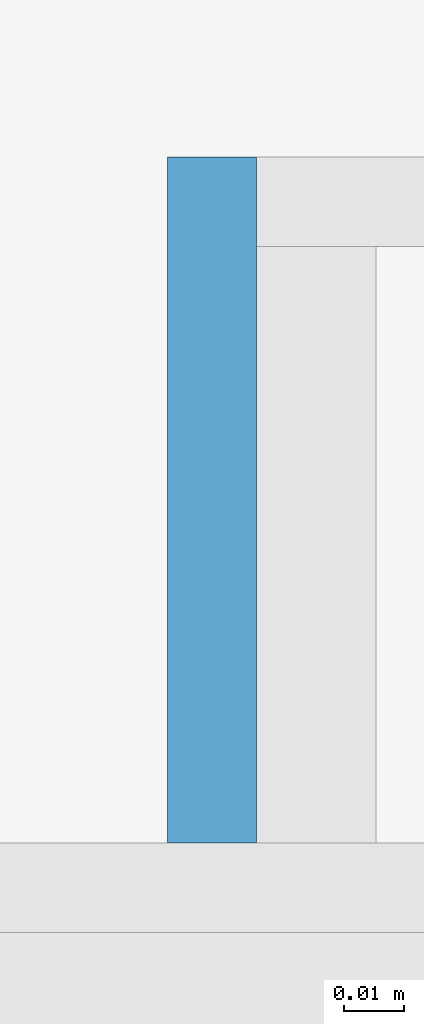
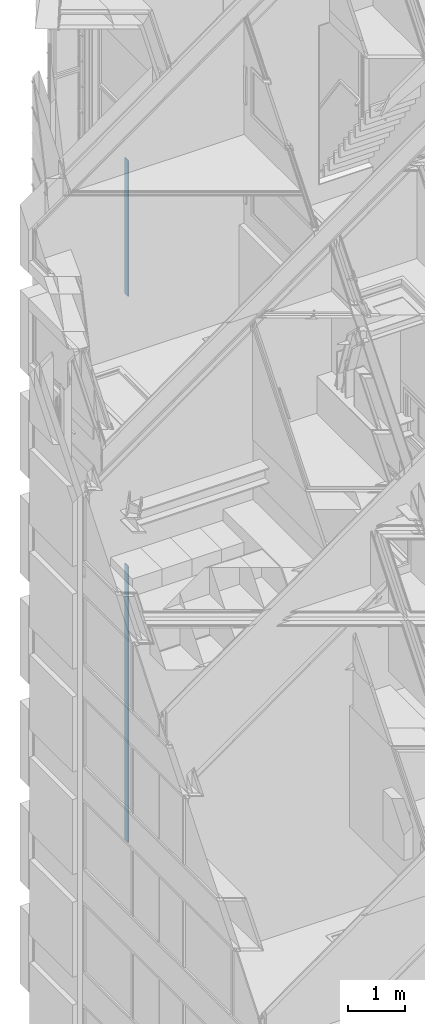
# One storey, part 274 of 583: 2 slabs.
"""IFC2X3 building model written with IfcOpenShell, lengths in metres."""

from ifc_helpers import new_model, entity, si_unit, converted_unit, derived_unit, money_unit, direction, frame, origin_with_axes, place, context, subcontext, project, spatial, faceted_brep, material, type_object, element, save


model = new_model("IFC2X3")

# Units and contexts
model_context = context("Model", 3, precision=1e-05, world=origin_with_axes(), true_north=direction((0.0, 1.0)))
body_context = subcontext(model_context, "Body", "Model", "MODEL_VIEW", scale=1.0)
ifc_project = project(units=[si_unit("LENGTHUNIT", "METRE"), si_unit("AREAUNIT", "SQUARE_METRE"), si_unit("VOLUMEUNIT", "CUBIC_METRE"), si_unit("ABSORBEDDOSEUNIT", "GRAY"), si_unit("AMOUNTOFSUBSTANCEUNIT", "MOLE"), si_unit("DOSEEQUIVALENTUNIT", "SIEVERT"), si_unit("ELECTRICCAPACITANCEUNIT", "FARAD"), si_unit("ELECTRICCHARGEUNIT", "COULOMB"), si_unit("ELECTRICCONDUCTANCEUNIT", "SIEMENS"), si_unit("ELECTRICCURRENTUNIT", "AMPERE"), si_unit("ELECTRICRESISTANCEUNIT", "OHM"), si_unit("ELECTRICVOLTAGEUNIT", "VOLT"), si_unit("ENERGYUNIT", "JOULE"), si_unit("FORCEUNIT", "NEWTON"), si_unit("FREQUENCYUNIT", "HERTZ"), si_unit("ILLUMINANCEUNIT", "LUX"), si_unit("INDUCTANCEUNIT", "HENRY"), si_unit("LUMINOUSFLUXUNIT", "LUMEN"), si_unit("LUMINOUSINTENSITYUNIT", "CANDELA"), si_unit("MAGNETICFLUXDENSITYUNIT", "TESLA"), si_unit("MAGNETICFLUXUNIT", "WEBER"), si_unit("MASSUNIT", "GRAM"), converted_unit("PLANEANGLEUNIT", "degree", entity("IfcReal", 0.0174532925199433), si_unit("PLANEANGLEUNIT", "RADIAN"), dimensions=[0, 0, 0, 0, 0, 0, 0]), si_unit("POWERUNIT", "WATT"), si_unit("PRESSUREUNIT", "PASCAL"), si_unit("RADIOACTIVITYUNIT", "BECQUEREL"), si_unit("SOLIDANGLEUNIT", "STERADIAN"), si_unit("THERMODYNAMICTEMPERATUREUNIT", "KELVIN"), si_unit("TIMEUNIT", "SECOND"), derived_unit("ACCELERATIONUNIT", [(si_unit("LENGTHUNIT", "METRE"), 1), (si_unit("TIMEUNIT", "SECOND"), -2)]), derived_unit("ANGULARVELOCITYUNIT", [(converted_unit("PLANEANGLEUNIT", "degree", entity("IfcReal", 0.0174532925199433), si_unit("PLANEANGLEUNIT", "RADIAN"), dimensions=[0, 0, 0, 0, 0, 0, 0]), 1), (si_unit("TIMEUNIT", "SECOND"), -1)]), derived_unit("CURVATUREUNIT", [(converted_unit("PLANEANGLEUNIT", "degree", entity("IfcReal", 0.0174532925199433), si_unit("PLANEANGLEUNIT", "RADIAN"), dimensions=[0, 0, 0, 0, 0, 0, 0]), 1), (si_unit("LENGTHUNIT", "METRE"), -1)]), derived_unit("DYNAMICVISCOSITYUNIT", [(si_unit("PRESSUREUNIT", "PASCAL"), 1), (si_unit("TIMEUNIT", "SECOND"), 1)]), derived_unit("HEATFLUXDENSITYUNIT", [(si_unit("POWERUNIT", "WATT"), 1), (si_unit("LENGTHUNIT", "METRE"), -2)]), derived_unit("HEATINGVALUEUNIT", [(si_unit("ENERGYUNIT", "JOULE"), 1), (si_unit("MASSUNIT", "GRAM"), -1)]), derived_unit("INTEGERCOUNTRATEUNIT", [(si_unit("TIMEUNIT", "SECOND"), -1)]), derived_unit("IONCONCENTRATIONUNIT", [(si_unit("MASSUNIT", "GRAM"), 1), (si_unit("VOLUMEUNIT", "CUBIC_METRE"), -1)]), derived_unit("ISOTHERMALMOISTURECAPACITYUNIT", [(si_unit("VOLUMEUNIT", "CUBIC_METRE"), 1), (si_unit("MASSUNIT", "GRAM"), -1)]), derived_unit("KINEMATICVISCOSITYUNIT", [(si_unit("AREAUNIT", "SQUARE_METRE"), 1), (si_unit("TIMEUNIT", "SECOND"), -1)]), derived_unit("LINEARFORCEUNIT", [(si_unit("FORCEUNIT", "NEWTON"), 1), (si_unit("LENGTHUNIT", "METRE"), -1)]), derived_unit("LINEARMOMENTUNIT", [(si_unit("FORCEUNIT", "NEWTON"), 1), (si_unit("LENGTHUNIT", "METRE"), -1)]), derived_unit("LINEARSTIFFNESSUNIT", [(si_unit("FORCEUNIT", "NEWTON"), 1), (si_unit("LENGTHUNIT", "METRE"), -1)]), derived_unit("LINEARVELOCITYUNIT", [(si_unit("LENGTHUNIT", "METRE"), 1), (si_unit("TIMEUNIT", "SECOND"), -1)]), derived_unit("LUMINOUSINTENSITYDISTRIBUTIONUNIT", [(si_unit("LUMINOUSINTENSITYUNIT", "CANDELA"), 1), (si_unit("LUMINOUSFLUXUNIT", "LUMEN"), -1)]), derived_unit("MASSDENSITYUNIT", [(si_unit("MASSUNIT", "GRAM"), 1), (si_unit("VOLUMEUNIT", "CUBIC_METRE"), -1)]), derived_unit("MASSFLOWRATEUNIT", [(si_unit("MASSUNIT", "GRAM"), 1), (si_unit("TIMEUNIT", "SECOND"), -1)]), derived_unit("MASSPERLENGTHUNIT", [(si_unit("MASSUNIT", "GRAM"), 1), (si_unit("LENGTHUNIT", "METRE"), -1)]), derived_unit("MODULUSOFELASTICITYUNIT", [(si_unit("FORCEUNIT", "NEWTON"), 1), (si_unit("AREAUNIT", "SQUARE_METRE"), -1)]), derived_unit("MODULUSOFLINEARSUBGRADEREACTIONUNIT", [(si_unit("FORCEUNIT", "NEWTON"), 1), (si_unit("LENGTHUNIT", "METRE"), -2)]), derived_unit("MODULUSOFROTATIONALSUBGRADEREACTIONUNIT", [(si_unit("FORCEUNIT", "NEWTON"), 1), (si_unit("LENGTHUNIT", "METRE"), 1)]), derived_unit("MODULUSOFSUBGRADEREACTIONUNIT", [(si_unit("FORCEUNIT", "NEWTON"), 1), (si_unit("VOLUMEUNIT", "CUBIC_METRE"), -1)]), derived_unit("MOISTUREDIFFUSIVITYUNIT", [(si_unit("VOLUMEUNIT", "CUBIC_METRE"), 1), (si_unit("TIMEUNIT", "SECOND"), -1)]), derived_unit("MOLECULARWEIGHTUNIT", [(si_unit("MASSUNIT", "GRAM"), 1), (si_unit("AMOUNTOFSUBSTANCEUNIT", "MOLE"), -1)]), derived_unit("PLANARFORCEUNIT", [(si_unit("FORCEUNIT", "NEWTON"), 1), (si_unit("LENGTHUNIT", "METRE"), -2)]), derived_unit("ROTATIONALFREQUENCYUNIT", [(si_unit("TIMEUNIT", "SECOND"), -1)]), derived_unit("ROTATIONALMASSUNIT", [(si_unit("MASSUNIT", "GRAM"), 1), (si_unit("LENGTHUNIT", "METRE"), 2)]), derived_unit("ROTATIONALSTIFFNESSUNIT", [(si_unit("FORCEUNIT", "NEWTON"), 1), (si_unit("LENGTHUNIT", "METRE"), 1), (converted_unit("PLANEANGLEUNIT", "degree", entity("IfcReal", 0.0174532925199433), si_unit("PLANEANGLEUNIT", "RADIAN"), dimensions=[0, 0, 0, 0, 0, 0, 0]), -1)]), derived_unit("SECTIONAREAINTEGRALUNIT", [(si_unit("LENGTHUNIT", "METRE"), 5)]), derived_unit("SECTIONMODULUSUNIT", [(si_unit("LENGTHUNIT", "METRE"), 3)]), derived_unit("SHEARMODULUSUNIT", [(si_unit("FORCEUNIT", "NEWTON"), 1), (si_unit("AREAUNIT", "SQUARE_METRE"), -1)]), derived_unit("SOUNDPOWERUNIT", [(si_unit("ENERGYUNIT", "JOULE"), 1), (si_unit("TIMEUNIT", "SECOND"), -1)]), derived_unit("SPECIFICHEATCAPACITYUNIT", [(si_unit("FORCEUNIT", "NEWTON"), 1), (si_unit("MASSUNIT", "GRAM"), -1), (si_unit("THERMODYNAMICTEMPERATUREUNIT", "KELVIN"), -1)]), derived_unit("TEMPERATUREGRADIENTUNIT", [(si_unit("THERMODYNAMICTEMPERATUREUNIT", "KELVIN"), 1), (si_unit("LENGTHUNIT", "METRE"), -1)]), derived_unit("THERMALADMITTANCEUNIT", [(si_unit("POWERUNIT", "WATT"), 1), (si_unit("AREAUNIT", "SQUARE_METRE"), -1), (si_unit("THERMODYNAMICTEMPERATUREUNIT", "KELVIN"), -1)]), derived_unit("THERMALCONDUCTANCEUNIT", [(si_unit("POWERUNIT", "WATT"), 1), (si_unit("LENGTHUNIT", "METRE"), -1), (si_unit("THERMODYNAMICTEMPERATUREUNIT", "KELVIN"), -1)]), derived_unit("THERMALEXPANSIONCOEFFICIENTUNIT", [(si_unit("THERMODYNAMICTEMPERATUREUNIT", "KELVIN"), -1)]), derived_unit("THERMALRESISTANCEUNIT", [(si_unit("AREAUNIT", "SQUARE_METRE"), 1), (si_unit("POWERUNIT", "WATT"), -1)]), derived_unit("THERMALTRANSMITTANCEUNIT", [(si_unit("POWERUNIT", "WATT"), 1), (si_unit("AREAUNIT", "SQUARE_METRE"), -1), (si_unit("THERMODYNAMICTEMPERATUREUNIT", "KELVIN"), -1)]), derived_unit("TORQUEUNIT", [(si_unit("FORCEUNIT", "NEWTON"), 1), (si_unit("LENGTHUNIT", "METRE"), 1)]), derived_unit("VAPORPERMEABILITYUNIT", [(si_unit("MASSUNIT", "GRAM"), 1), (si_unit("TIMEUNIT", "SECOND"), -1)]), derived_unit("VOLUMETRICFLOWRATEUNIT", [(si_unit("VOLUMEUNIT", "CUBIC_METRE"), 1), (si_unit("TIMEUNIT", "SECOND"), -1)]), derived_unit("WARPINGCONSTANTUNIT", [(si_unit("LENGTHUNIT", "METRE"), 6)]), derived_unit("WARPINGMOMENTUNIT", [(si_unit("FORCEUNIT", "NEWTON"), 1), (si_unit("LENGTHUNIT", "METRE"), 2)]), money_unit("GBP")], contexts=[model_context])

# Site, building, storey
site_placement = place(None, origin_with_axes())
site = spatial("IfcSite", under=ifc_project, at=site_placement, Name="Site", CompositionType="ELEMENT")
building_placement = place(site_placement, origin_with_axes())
building = spatial("IfcBuilding", under=site, at=building_placement, Name="Building01", CompositionType="ELEMENT")
storey_placement = place(building_placement, frame((0.0, 0.0, 20.78), z_axis=(0.0, 0.0, 1.0), x_axis=(1.0, 0.0, 0.0)))
storey = spatial("IfcBuildingStorey", under=building, at=storey_placement, Name="RL", CompositionType="ELEMENT", Elevation=20.78)

# Slabs
ifc_material = material(Name="A_BSUK_CeilingSoffitFinishes_Suspended")
slab_type = type_object("IfcSlabType", Name="A-FloorsSlabs A_BSUK_Slabs", PredefinedType="FLOOR")
placement = place(storey_placement, frame((0.0, 0.0, -20.78), z_axis=(0.0, 0.0, 1.0), x_axis=(1.0, 0.0, 0.0)))
element("IfcSlab", 1, at=placement, inside=storey, type_object=slab_type, material=ifc_material, Name="A-FloorsSlabs A_BSUK_Slabs", ObjectType="CompoundSlabLeaf", context=body_context, shape_type="Brep", body=[
    faceted_brep([(4.0734, 20.195, 9.0), (4.0884, 20.195, 9.0), (4.0884, 20.31, 9.0), (4.0734, 20.31, 9.0), (4.0734, 20.195, 3.1), (4.0884, 20.195, 3.1), (4.0734, 20.31, 3.1), (4.0884, 20.31, 3.1)], [[[0, 1, 2, 3]], [[4, 5, 1, 0]], [[6, 7, 5, 4]], [[3, 2, 7, 6]], [[1, 5, 7, 2]], [[3, 6, 4, 0]]]),
])
element("IfcSlab", 2, at=placement, inside=storey, type_object=slab_type, material=ifc_material, Name="A-FloorsSlabs A_BSUK_Slabs", ObjectType="CompoundSlabLeaf", context=body_context, shape_type="Brep", body=[
    faceted_brep([(4.0734, 20.195, 17.65), (4.0884, 20.195, 17.65), (4.0884, 20.31, 17.65), (4.0734, 20.31, 17.65), (4.0734, 20.195, 14.75), (4.0884, 20.195, 14.75), (4.0734, 20.31, 14.75), (4.0884, 20.31, 14.75)], [[[0, 1, 2, 3]], [[4, 5, 1, 0]], [[6, 7, 5, 4]], [[3, 2, 7, 6]], [[1, 5, 7, 2]], [[3, 6, 4, 0]]]),
])

save(model, "model.ifc")
